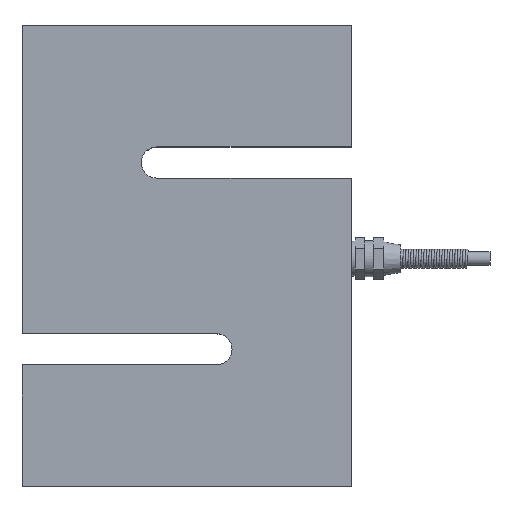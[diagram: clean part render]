
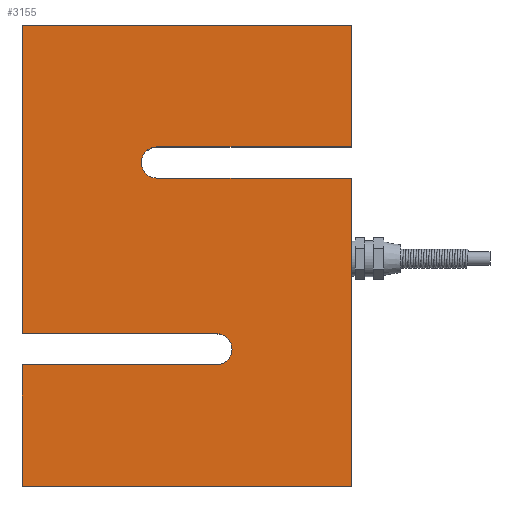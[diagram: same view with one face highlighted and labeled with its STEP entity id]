
A CAD part, top view. The second image highlights one B-rep face of the part: STEP entity #3155.
In plain terms, the highlighted planar face has unit normal (0, 0, 1).
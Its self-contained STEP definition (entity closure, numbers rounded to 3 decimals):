
#40 = DIRECTION ( 'NONE',  ( 1., 0., 0. ) ) ;
#55 = DIRECTION ( 'NONE',  ( 0., -1., 0. ) ) ;
#56 = CARTESIAN_POINT ( 'NONE',  ( -127., 0., 50.8 ) ) ;
#59 = LINE ( 'NONE', #56, #5122 ) ;
#62 = DIRECTION ( 'NONE',  ( -1., 0., 0. ) ) ;
#74 = CARTESIAN_POINT ( 'NONE',  ( -75., -59., 50.8 ) ) ;
#76 = LINE ( 'NONE', #74, #5027 ) ;
#77 = DIRECTION ( 'NONE',  ( 1., 0., 0. ) ) ;
#78 = DIRECTION ( 'NONE',  ( 0., 0., 1. ) ) ;
#79 = CARTESIAN_POINT ( 'NONE',  ( -75., -53., 50.8 ) ) ;
#86 = DIRECTION ( 'NONE',  ( -1., 0., 0. ) ) ;
#97 = PLANE ( 'NONE',  #5132 ) ;
#100 = LINE ( 'NONE', #128, #5090 ) ;
#108 = LINE ( 'NONE', #358, #5128 ) ;
#128 = CARTESIAN_POINT ( 'NONE',  ( -127., -119., 50.8 ) ) ;
#142 = CARTESIAN_POINT ( 'NONE',  ( -52., -125., 50.8 ) ) ;
#163 = LINE ( 'NONE', #391, #5159 ) ;
#206 = DIRECTION ( 'NONE',  ( 1., 0., 0. ) ) ;
#240 = DIRECTION ( 'NONE',  ( 0., 0., -1. ) ) ;
#254 = CARTESIAN_POINT ( 'NONE',  ( -75., -53., 50.8 ) ) ;
#266 = DIRECTION ( 'NONE',  ( 0., 0., -1. ) ) ;
#282 = CARTESIAN_POINT ( 'NONE',  ( -127., -131., 50.8 ) ) ;
#308 = LINE ( 'NONE', #388, #5119 ) ;
#320 = DIRECTION ( 'NONE',  ( -1., 0., 0. ) ) ;
#322 = DIRECTION ( 'NONE',  ( 1., 0., 0. ) ) ;
#358 = CARTESIAN_POINT ( 'NONE',  ( -52., -131., 50.8 ) ) ;
#384 = LINE ( 'NONE', #282, #5061 ) ;
#388 = CARTESIAN_POINT ( 'NONE',  ( 0., -47., 50.8 ) ) ;
#390 = DIRECTION ( 'NONE',  ( 1., 0., 0. ) ) ;
#391 = CARTESIAN_POINT ( 'NONE',  ( -127., -178., 50.8 ) ) ;
#393 = CARTESIAN_POINT ( 'NONE',  ( 0., 0., 50.8 ) ) ;
#407 = DIRECTION ( 'NONE',  ( 0., -1., 0. ) ) ;
#409 = LINE ( 'NONE', #393, #5108 ) ;
#414 = DIRECTION ( 'NONE',  ( -1., 0., 0. ) ) ;
#1771 = VECTOR ( 'NONE', #4402, 1000. ) ;
#1790 = VECTOR ( 'NONE', #4414, 1000. ) ;
#3115 = EDGE_CURVE ( 'NONE', #4634, #4744, #163, .T. ) ;
#3118 = EDGE_CURVE ( 'NONE', #4733, #4842, #308, .T. ) ;
#3123 = EDGE_CURVE ( 'NONE', #4728, #4701, #409, .T. ) ;
#3135 = EDGE_CURVE ( 'NONE', #4739, #4638, #3217, .T. ) ;
#3139 = EDGE_CURVE ( 'NONE', #4837, #4733, #3201, .T. ) ;
#3147 = EDGE_CURVE ( 'NONE', #4737, #4634, #384, .T. ) ;
#3150 = EDGE_CURVE ( 'NONE', #4638, #4737, #108, .T. ) ;
#3155 = ADVANCED_FACE ( 'NONE', ( #5067 ), #97, .T. ) ;
#3156 = EDGE_CURVE ( 'NONE', #4851, #4837, #76, .T. ) ;
#3157 = EDGE_CURVE ( 'NONE', #4701, #4662, #59, .T. ) ;
#3164 = EDGE_CURVE ( 'NONE', #4662, #4739, #100, .T. ) ;
#3201 = CIRCLE ( 'NONE', #5136, 6. ) ;
#3217 = CIRCLE ( 'NONE', #5162, 6. ) ;
#3272 = EDGE_CURVE ( 'NONE', #4842, #4728, #4400, .T. ) ;
#3276 = EDGE_CURVE ( 'NONE', #4744, #4851, #4412, .T. ) ;
#4400 = LINE ( 'NONE', #4401, #1771 ) ;
#4401 = CARTESIAN_POINT ( 'NONE',  ( 0., 0., 50.8 ) ) ;
#4402 = DIRECTION ( 'NONE',  ( 0., 1., 0. ) ) ;
#4412 = LINE ( 'NONE', #4413, #1790 ) ;
#4413 = CARTESIAN_POINT ( 'NONE',  ( 0., -59., 50.8 ) ) ;
#4414 = DIRECTION ( 'NONE',  ( 0., 1., 0. ) ) ;
#4624 = ORIENTED_EDGE ( 'NONE', *, *, #3115, .T. ) ;
#4626 = ORIENTED_EDGE ( 'NONE', *, *, #3272, .T. ) ;
#4634 = VERTEX_POINT ( 'NONE', #5233 ) ;
#4638 = VERTEX_POINT ( 'NONE', #5235 ) ;
#4647 = ORIENTED_EDGE ( 'NONE', *, *, #3156, .T. ) ;
#4657 = ORIENTED_EDGE ( 'NONE', *, *, #3118, .T. ) ;
#4662 = VERTEX_POINT ( 'NONE', #5237 ) ;
#4668 = ORIENTED_EDGE ( 'NONE', *, *, #3123, .T. ) ;
#4701 = VERTEX_POINT ( 'NONE', #5241 ) ;
#4707 = ORIENTED_EDGE ( 'NONE', *, *, #3139, .T. ) ;
#4710 = ORIENTED_EDGE ( 'NONE', *, *, #3164, .T. ) ;
#4728 = VERTEX_POINT ( 'NONE', #5244 ) ;
#4733 = VERTEX_POINT ( 'NONE', #5246 ) ;
#4735 = ORIENTED_EDGE ( 'NONE', *, *, #3150, .T. ) ;
#4737 = VERTEX_POINT ( 'NONE', #5248 ) ;
#4739 = VERTEX_POINT ( 'NONE', #5249 ) ;
#4741 = ORIENTED_EDGE ( 'NONE', *, *, #3157, .T. ) ;
#4742 = ORIENTED_EDGE ( 'NONE', *, *, #3276, .T. ) ;
#4744 = VERTEX_POINT ( 'NONE', #5251 ) ;
#4817 = ORIENTED_EDGE ( 'NONE', *, *, #3147, .T. ) ;
#4837 = VERTEX_POINT ( 'NONE', #5266 ) ;
#4842 = VERTEX_POINT ( 'NONE', #5267 ) ;
#4851 = VERTEX_POINT ( 'NONE', #5270 ) ;
#4857 = ORIENTED_EDGE ( 'NONE', *, *, #3135, .T. ) ;
#4860 = EDGE_LOOP ( 'NONE', ( #4626, #4668, #4741, #4710, #4857, #4735, #4817, #4624, #4742, #4647, #4707, #4657 ) ) ;
#5027 = VECTOR ( 'NONE', #86, 1000. ) ;
#5061 = VECTOR ( 'NONE', #407, 1000. ) ;
#5067 = FACE_OUTER_BOUND ( 'NONE', #4860, .T. ) ;
#5090 = VECTOR ( 'NONE', #40, 1000. ) ;
#5108 = VECTOR ( 'NONE', #414, 1000. ) ;
#5119 = VECTOR ( 'NONE', #206, 1000. ) ;
#5122 = VECTOR ( 'NONE', #55, 1000. ) ;
#5128 = VECTOR ( 'NONE', #320, 1000. ) ;
#5132 = AXIS2_PLACEMENT_3D ( 'NONE', #79, #78, #77 ) ;
#5136 = AXIS2_PLACEMENT_3D ( 'NONE', #254, #266, #322 ) ;
#5159 = VECTOR ( 'NONE', #390, 1000. ) ;
#5162 = AXIS2_PLACEMENT_3D ( 'NONE', #142, #240, #62 ) ;
#5233 = CARTESIAN_POINT ( 'NONE',  ( -127., -178., 50.8 ) ) ;
#5235 = CARTESIAN_POINT ( 'NONE',  ( -52., -131., 50.8 ) ) ;
#5237 = CARTESIAN_POINT ( 'NONE',  ( -127., -119., 50.8 ) ) ;
#5241 = CARTESIAN_POINT ( 'NONE',  ( -127., 0., 50.8 ) ) ;
#5244 = CARTESIAN_POINT ( 'NONE',  ( 0., 0., 50.8 ) ) ;
#5246 = CARTESIAN_POINT ( 'NONE',  ( -75., -47., 50.8 ) ) ;
#5248 = CARTESIAN_POINT ( 'NONE',  ( -127., -131., 50.8 ) ) ;
#5249 = CARTESIAN_POINT ( 'NONE',  ( -52., -119., 50.8 ) ) ;
#5251 = CARTESIAN_POINT ( 'NONE',  ( 0., -178., 50.8 ) ) ;
#5266 = CARTESIAN_POINT ( 'NONE',  ( -75., -59., 50.8 ) ) ;
#5267 = CARTESIAN_POINT ( 'NONE',  ( 0., -47., 50.8 ) ) ;
#5270 = CARTESIAN_POINT ( 'NONE',  ( 0., -59., 50.8 ) ) ;
